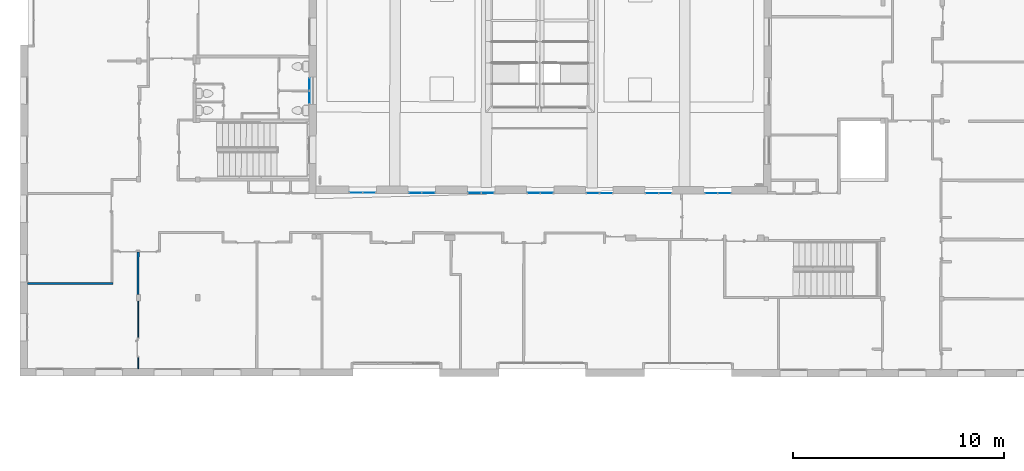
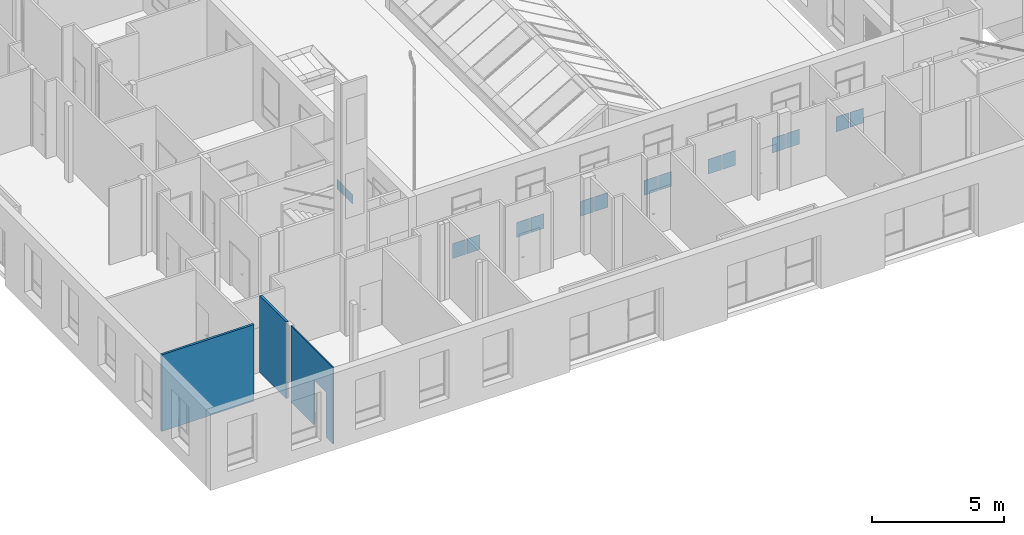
# One storey, part 41 of 101: 16 plates, 3 walls, 1 opening, 9 elements without a shape of their own.
"""IFC2X3 building model written with IfcOpenShell, lengths in metres."""

import ifcopenshell
import ifcopenshell.guid

model = None  # the IFC model being written
_history = None  # IfcOwnerHistory: only IFC2X3 demands one
_inside = {}  # id of a spatial element -> (the spatial element, [elements in it])
_under = {}  # id of a project, library or spatial element -> (it, [spatial elements below it])
_declared = {}  # id of a project -> (the project, [libraries it declares])
_typed = {}  # id of a type object -> (the type object, [elements of that type])
_made_of = {}  # id of a material, layer set ... -> (it, [elements and type objects made of it])


def new_model(schema):
    """Start an empty IFC model of exactly this schema.

    Asked for "IFC4X3", IfcOpenShell would pick the latest addendum, in which some entities
    have other attributes; the version numbers below select the first issue.
    IFC2X3 requires an IfcOwnerHistory on every rooted entity: one is made here for all.
    """
    global model, _history
    if schema == "IFC4X3":
        model = ifcopenshell.file(schema_version=(4, 3, 0, 0))
    else:
        model = ifcopenshell.file(schema=schema)
    _inside.clear()
    _under.clear()
    _declared.clear()
    _typed.clear()
    _made_of.clear()
    _history = None
    if model.schema == "IFC2X3":
        org = make("IfcOrganization", Name="unknown")
        user = make(
            "IfcPersonAndOrganization",
            ThePerson=make("IfcPerson", FamilyName="unknown"),
            TheOrganization=org,
        )
        app = make(
            "IfcApplication",
            ApplicationDeveloper=org,
            Version="unknown",
            ApplicationFullName="unknown",
            ApplicationIdentifier="unknown",
        )
        _history = make(
            "IfcOwnerHistory",
            OwningUser=user,
            OwningApplication=app,
            ChangeAction="ADDED",
            CreationDate=0,
        )
    return model


def make(cls, **values):
    """One entity of the class cls with the attributes given. An attribute that is None is left unset."""
    return model.create_entity(
        cls, **{name: value for name, value in values.items() if value is not None}
    )


def entity(cls, *values):
    """Any entity or typed value of the class cls, its attributes in the order of the schema. None: left unset."""
    e = model.create_entity(cls)
    for i, value in enumerate(values):
        if value is not None:
            e[i] = value
    return e


def rooted(cls, **values):
    """An entity with a GlobalId (a new one), such as an element, a storey or a relation."""
    return make(cls, GlobalId=ifcopenshell.guid.new(), OwnerHistory=_history, **values)


def si_unit(unit_type, name, prefix=None):
    """IfcSIUnit, for example si_unit("LENGTHUNIT", "METRE", prefix="MILLI")."""
    return make("IfcSIUnit", UnitType=unit_type, Prefix=prefix, Name=name)


def converted_unit(unit_type, name, factor, base, dimensions=None, offset=None):
    """IfcConversionBasedUnit, such as the inch: factor (a typed value) times the base unit."""
    return make(
        "IfcConversionBasedUnit"
        if offset is None
        else "IfcConversionBasedUnitWithOffset",
        ConversionOffset=offset,
        Dimensions=None
        if dimensions is None
        else entity("IfcDimensionalExponents", *dimensions),
        UnitType=unit_type,
        Name=name,
        ConversionFactor=make(
            "IfcMeasureWithUnit", ValueComponent=factor, UnitComponent=base
        ),
    )


def derived_unit(unit_type, elements):
    """IfcDerivedUnit: a product of units, each with its exponent."""
    return make(
        "IfcDerivedUnit",
        Elements=[
            make("IfcDerivedUnitElement", Unit=unit, Exponent=power)
            for unit, power in elements
        ],
        UnitType=unit_type,
    )


def assignment(units):
    """IfcUnitAssignment: the units of a project."""
    return None if units is None else make("IfcUnitAssignment", Units=units)


def point(xyz):
    """IfcCartesianPoint."""
    return None if xyz is None else make("IfcCartesianPoint", Coordinates=xyz)


def direction(xyz):
    """IfcDirection."""
    return None if xyz is None else make("IfcDirection", DirectionRatios=xyz)


def frame(location, z_axis=None, x_axis=None):
    """IfcAxis2Placement3D, a coordinate frame: its origin and axes. An axis left out is left unset."""
    return make(
        "IfcAxis2Placement3D",
        Location=point(location),
        Axis=direction(z_axis),
        RefDirection=direction(x_axis),
    )


def frame_2d(location, x_axis=None):
    """IfcAxis2Placement2D, a coordinate frame in the plane: its origin and x axis."""
    return make(
        "IfcAxis2Placement2D", Location=point(location), RefDirection=direction(x_axis)
    )


def origin():
    """The frame at (0, 0, 0) with its axes left unset."""
    return frame((0.0, 0.0, 0.0))


def place(relative_to, where):
    """IfcLocalPlacement: puts the frame where relative to a parent placement (None: the world)."""
    return make(
        "IfcLocalPlacement", PlacementRelTo=relative_to, RelativePlacement=where
    )


def context(
    kind, dimensions, precision=None, world=None, true_north=None, identifier=None
):
    """IfcGeometricRepresentationContext, for example the 3D "Model" context."""
    return make(
        "IfcGeometricRepresentationContext",
        ContextIdentifier=identifier,
        ContextType=kind,
        CoordinateSpaceDimension=dimensions,
        Precision=precision,
        WorldCoordinateSystem=world,
        TrueNorth=true_north,
    )


def subcontext(parent, identifier, kind, view, scale=None):
    """IfcGeometricRepresentationSubContext, for example "Body" below "Model"."""
    return make(
        "IfcGeometricRepresentationSubContext",
        ContextIdentifier=identifier,
        ContextType=kind,
        ParentContext=parent,
        TargetScale=scale,
        TargetView=view,
    )


def project(units=None, contexts=None):
    """IfcProject with its units and contexts."""
    return rooted(
        "IfcProject",
        Name="project",
        RepresentationContexts=contexts,
        UnitsInContext=assignment(units),
    )


def spatial(cls, under=None, at=None, **own):
    """A site, building, storey or space (cls), placed at a placement, below another one or the project."""
    s = rooted(cls, ObjectPlacement=at, **own)
    if under is not None:
        _under.setdefault(under.id(), (under, []))[1].append(s)
    return s


def profile(cls, at=None, kind="AREA", **sizes):
    """A parametric profile (cls). Its sizes go by their IFC names, for example OverallWidth=200.0."""
    return make(cls, ProfileType=kind, Position=at, **sizes)


def rectangle(**sizes):
    """IfcRectangleProfileDef."""
    return profile("IfcRectangleProfileDef", **sizes)


def extrude(swept, where, along, depth):
    """IfcExtrudedAreaSolid: the profile swept, set in the frame where, extruded along a direction by depth."""
    return make(
        "IfcExtrudedAreaSolid",
        SweptArea=swept,
        Position=where,
        ExtrudedDirection=direction(along),
        Depth=depth,
    )


def shape(context_of_items, identifier, shape_type, items):
    """IfcShapeRepresentation: the items that make up one representation, for example the "Body"."""
    return make(
        "IfcShapeRepresentation",
        ContextOfItems=context_of_items,
        RepresentationIdentifier=identifier,
        RepresentationType=shape_type,
        Items=items,
    )


def source(mapping_origin, context_of_items, identifier, shape_type, items):
    """IfcRepresentationMap: a shape defined once, which mapped items show again and again."""
    return make(
        "IfcRepresentationMap",
        MappingOrigin=mapping_origin,
        MappedRepresentation=shape(context_of_items, identifier, shape_type, items),
    )


def transform(
    local_origin,
    x_axis=None,
    y_axis=None,
    z_axis=None,
    scale=None,
    scale2=None,
    scale3=None,
    uniform=True,
):
    """IfcCartesianTransformationOperator3D, or its non-uniform kind. x_axis, y_axis, z_axis: its Axis1, 2, 3."""
    if uniform:
        return make(
            "IfcCartesianTransformationOperator3D",
            Axis1=direction(x_axis),
            Axis2=direction(y_axis),
            LocalOrigin=point(local_origin),
            Scale=scale,
            Axis3=direction(z_axis),
        )
    return make(
        "IfcCartesianTransformationOperator3DnonUniform",
        Axis1=direction(x_axis),
        Axis2=direction(y_axis),
        LocalOrigin=point(local_origin),
        Scale=scale,
        Axis3=direction(z_axis),
        Scale2=scale2,
        Scale3=scale3,
    )


def mapped(mapping_source, mapping_target):
    """IfcMappedItem: shows the shape of a source again, moved by a transform."""
    return make(
        "IfcMappedItem", MappingSource=mapping_source, MappingTarget=mapping_target
    )


def material(Name=None, Category=None):
    """IfcMaterial."""
    return make("IfcMaterial", Name=Name, Category=Category)


def layer(
    of_material, thickness, ventilated=None, Name=None, Category=None, Priority=None
):
    """IfcMaterialLayer: one layer of a wall or slab, of a material (None: an air gap)."""
    return make(
        "IfcMaterialLayer",
        Material=of_material,
        LayerThickness=thickness,
        IsVentilated=ventilated,
        Name=Name,
        Category=Category,
        Priority=Priority,
    )


def layer_set(layers, Name=None):
    """IfcMaterialLayerSet."""
    return make("IfcMaterialLayerSet", MaterialLayers=layers, LayerSetName=Name)


def layer_usage(for_layer_set, set_direction, sense, offset, extent=None):
    """IfcMaterialLayerSetUsage: how a layer set lies in its element."""
    return make(
        "IfcMaterialLayerSetUsage",
        ForLayerSet=for_layer_set,
        LayerSetDirection=set_direction,
        DirectionSense=sense,
        OffsetFromReferenceLine=offset,
        ReferenceExtent=extent,
    )


def made_of(thing, what):
    """Note that an element or type object is made of a material, layer set ...; save() writes the relation."""
    if what is not None:
        _made_of.setdefault(what.id(), (what, []))[1].append(thing)
    return thing


def type_object(cls, material=None, **own):
    """A type object (cls), such as IfcWallType, which elements share."""
    return made_of(rooted(cls, **own), material)


def type_shapes(of_type, sources):
    """Give a type object the sources (RepresentationMaps) that its elements show as mapped items."""
    of_type.RepresentationMaps = sources


def element(
    cls,
    number,
    at=None,
    inside=None,
    cuts=None,
    type_object=None,
    material=None,
    context=None,
    identifier="Body",
    shape_type=None,
    held_by="IfcProductDefinitionShape",
    body=None,
    shapes=None,
    **own,
):
    """One element of the class cls, such as IfcWall. Its Tag is "e" and its number.

    at: its placement. inside: the storey or other place that contains it. cuts: it is an
    opening in that element (IfcRelVoidsElement). A single representation is given by context,
    identifier, shape_type and body (its items); several are given by shapes. held_by: the class
    of the entity that holds the representations. save() writes the other relations.
    """
    e = rooted(cls, Tag="e%d" % number, ObjectPlacement=at, **own)
    if body is not None:
        shapes = [shape(context, identifier, shape_type, body)]
    if shapes is not None:
        e.Representation = make(held_by, Representations=shapes)
    if inside is not None:
        _inside.setdefault(inside.id(), (inside, []))[1].append(e)
    if cuts is not None:
        rooted(
            "IfcRelVoidsElement", RelatingBuildingElement=cuts, RelatedOpeningElement=e
        )
    if type_object is not None:
        _typed.setdefault(type_object.id(), (type_object, []))[1].append(e)
    return made_of(e, material)


def aggregate(whole, parts):
    """IfcRelAggregates: a whole, such as a stair, and the parts it consists of."""
    return rooted("IfcRelAggregates", RelatingObject=whole, RelatedObjects=parts)


def save(model, path):
    """Write the relations noted so far, then the file.

    IfcRelAggregates (storeys below a building ...), IfcRelContainedInSpatialStructure (elements
    in a storey), IfcRelDefinesByType, IfcRelAssociatesMaterial and IfcRelDeclares: one each for
    every whole, place, type object, material and project.
    """
    for whole, parts in _under.values():
        aggregate(whole, parts)
    for where, things in _inside.values():
        rooted(
            "IfcRelContainedInSpatialStructure",
            RelatedElements=things,
            RelatingStructure=where,
        )
    for kind, things in _typed.values():
        rooted("IfcRelDefinesByType", RelatedObjects=things, RelatingType=kind)
    for what, things in _made_of.values():
        rooted("IfcRelAssociatesMaterial", RelatedObjects=things, RelatingMaterial=what)
    for by, libraries in _declared.values():
        rooted("IfcRelDeclares", RelatingContext=by, RelatedDefinitions=libraries)
    model.write(path)


model = new_model("IFC2X3")

# Units and contexts
model_context = context("Model", 3, precision=1e-05, world=origin(), true_north=direction((6.123233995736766e-17, 1.0)))
body_context = subcontext(model_context, "Body", "Model", "MODEL_VIEW")
ifc_project = project(units=[si_unit("LENGTHUNIT", "METRE"), si_unit("AREAUNIT", "SQUARE_METRE"), converted_unit("PLANEANGLEUNIT", "DEGREE", entity("IfcPlaneAngleMeasure", 0.017453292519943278), si_unit("PLANEANGLEUNIT", "RADIAN"), dimensions=[0, 0, 0, 0, 0, 0, 0]), derived_unit("THERMALTRANSMITTANCEUNIT", [(si_unit("MASSUNIT", "GRAM", prefix="KILO"), 1), (si_unit("THERMODYNAMICTEMPERATUREUNIT", "KELVIN"), -1), (si_unit("TIMEUNIT", "SECOND"), -3)])], contexts=[model_context])

# Site, building, storey
site_placement = place(None, frame((1253.6752467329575, 2072.143113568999, 91.49999999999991), z_axis=(0.0, 0.0, 1.0), x_axis=(0.7237211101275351, 0.6900925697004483, 0.0)))
site = spatial("IfcSite", under=ifc_project, at=site_placement, Name="Surface", CompositionType="ELEMENT")
building_placement = place(site_placement, origin())
building = spatial("IfcBuilding", under=site, at=building_placement, CompositionType="ELEMENT")
storey_placement = place(building_placement, origin())
storey = spatial("IfcBuildingStorey", under=building, at=storey_placement, Name="0- Rdc", CompositionType="ELEMENT", Elevation=-5.764692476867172e-13)

# Curtain wall, plate
curtain_wall_type_1 = type_object("IfcCurtainWallType", Name="Mur-rideau:Menuiserie Ext 1F+1OB VERTIC", PredefinedType="NOTDEFINED")
curtain_wall_1_placement = place(storey_placement, origin())
curtain_wall_1 = element("IfcCurtainWall", 1, at=curtain_wall_1_placement, inside=storey, type_object=curtain_wall_type_1, Name="Mur-rideau:Menuiserie Ext 1F+1OB VERTIC", ObjectType="Mur-rideau:Menuiserie Ext 1F+1OB VERTIC")
ifc_material_1 = material(Name="OMD-Verre opal")
ifc_material_2 = material(Name="Verre")
ifc_layer_1 = layer(ifc_material_2, 0.01)
ifc_layer_set_1 = layer_set([ifc_layer_1], Name="Panneau système:Vitré opal")
plate_type_1 = type_object("IfcPlateType", Name="Panneau système:Vitré opal", PredefinedType="CURTAIN_PANEL", material=ifc_layer_set_1)
shared_shape_1 = source(origin(), body_context, "Body", "SweptSolid", [
    extrude(rectangle(XDim=0.01, YDim=0.5496959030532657, at=frame_2d((0.0, 3.608224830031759e-16), x_axis=(1.0, 0.0))), frame((0.0, 0.0, 0.0), z_axis=(0.0, 0.0, 1.0), x_axis=(0.0, 1.0, 0.0)), (0.0, 0.0, 1.0), 0.44499999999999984),
])
type_shapes(plate_type_1, [shared_shape_1])
plate_1_placement = place(curtain_wall_1_placement, frame((162.72651495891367, 4.341201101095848, 0.6699999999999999), z_axis=(0.0, 0.0, 1.0), x_axis=(0.6909838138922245, 0.722870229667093, 0.0)))
plate_1 = element("IfcPlate", 2, at=plate_1_placement, type_object=plate_type_1, material=ifc_material_1, Name="Panneau système:Vitré opal", ObjectType="Panneau système:Vitré opal", context=body_context, shape_type="MappedRepresentation", body=[
    mapped(shared_shape_1, transform((0.0, 0.0, 0.0), scale=1.0)),
])
aggregate(curtain_wall_1, [plate_1])

# Curtain wall, plates
curtain_wall_type_2 = type_object("IfcCurtainWallType", Name="Mur-rideau:Menuiserie Ext 2OF+1F VERTIC", PredefinedType="NOTDEFINED")
curtain_wall_2_placement = place(storey_placement, origin())
curtain_wall_2 = element("IfcCurtainWall", 3, at=curtain_wall_2_placement, inside=storey, type_object=curtain_wall_type_2, Name="Mur-rideau:Menuiserie Ext 2OF+1F VERTIC", ObjectType="Mur-rideau:Menuiserie Ext 2OF+1F VERTIC")
ifc_layer_2 = layer(ifc_material_2, 0.01)
ifc_layer_set_2 = layer_set([ifc_layer_2], Name="Panneau système:Vitré")
plate_type_2 = type_object("IfcPlateType", Name="Panneau système:Vitré", PredefinedType="CURTAIN_PANEL", material=ifc_layer_set_2)
shared_shape_2 = source(origin(), body_context, "Body", "SweptSolid", [
    extrude(rectangle(XDim=0.01, YDim=0.5748479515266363, at=frame_2d((0.0, 1.4988010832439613e-15), x_axis=(1.0, 0.0))), frame((0.0, 0.0, 0.0), z_axis=(0.0, 0.0, 1.0), x_axis=(0.0, 1.0, 0.0)), (0.0, 0.0, 1.0), 0.6916666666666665),
])
type_shapes(plate_type_2, [shared_shape_2])
plate_2_placement = place(curtain_wall_2_placement, frame((161.66565428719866, -0.8701277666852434, 0.05), z_axis=(0.0, 0.0, 1.0), x_axis=(-0.7228702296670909, 0.6909838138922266, 0.0)))
plate_2 = element("IfcPlate", 4, at=plate_2_placement, type_object=plate_type_2, material=ifc_material_2, Name="Panneau système:Vitré", ObjectType="Panneau système:Vitré", context=body_context, shape_type="MappedRepresentation", body=[
    mapped(shared_shape_2, transform((0.0, 0.0, 0.0), scale=1.0)),
])
plate_3_placement = place(curtain_wall_2_placement, frame((161.21397030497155, -0.438367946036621, 0.05), z_axis=(0.0, 0.0, 1.0), x_axis=(-0.7228702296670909, 0.6909838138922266, 0.0)))
plate_3 = element("IfcPlate", 5, at=plate_3_placement, type_object=plate_type_2, material=ifc_material_2, Name="Panneau système:Vitré", ObjectType="Panneau système:Vitré", context=body_context, shape_type="MappedRepresentation", body=[
    mapped(shared_shape_2, transform((0.0, 0.0, 0.0), scale=1.0)),
])
aggregate(curtain_wall_2, [plate_2, plate_3])

curtain_wall_3_placement = place(storey_placement, origin())
curtain_wall_3 = element("IfcCurtainWall", 6, at=curtain_wall_3_placement, inside=storey, type_object=curtain_wall_type_2, Name="Mur-rideau:Menuiserie Ext 2OF+1F VERTIC", ObjectType="Mur-rideau:Menuiserie Ext 2OF+1F VERTIC")
plate_4_placement = place(curtain_wall_3_placement, frame((163.6922186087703, -2.807298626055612, 0.05), z_axis=(0.0, 0.0, 1.0), x_axis=(-0.7228702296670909, 0.6909838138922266, 0.0)))
plate_4 = element("IfcPlate", 7, at=plate_4_placement, type_object=plate_type_2, material=ifc_material_2, Name="Panneau système:Vitré", ObjectType="Panneau système:Vitré", context=body_context, shape_type="MappedRepresentation", body=[
    mapped(shared_shape_2, transform((0.0, 0.0, 0.0), scale=1.0)),
])
plate_5_placement = place(curtain_wall_3_placement, frame((163.2405346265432, -2.3755388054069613, 0.05), z_axis=(0.0, 0.0, 1.0), x_axis=(-0.7228702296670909, 0.6909838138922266, 0.0)))
plate_5 = element("IfcPlate", 8, at=plate_5_placement, type_object=plate_type_2, material=ifc_material_2, Name="Panneau système:Vitré", ObjectType="Panneau système:Vitré", context=body_context, shape_type="MappedRepresentation", body=[
    mapped(shared_shape_2, transform((0.0, 0.0, 0.0), scale=1.0)),
])
aggregate(curtain_wall_3, [plate_4, plate_5])

curtain_wall_4_placement = place(storey_placement, origin())
curtain_wall_4 = element("IfcCurtainWall", 9, at=curtain_wall_4_placement, inside=storey, type_object=curtain_wall_type_2, Name="Mur-rideau:Menuiserie Ext 2OF+1F VERTIC", ObjectType="Mur-rideau:Menuiserie Ext 2OF+1F VERTIC")
plate_6_placement = place(curtain_wall_4_placement, frame((165.7162552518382, -4.742053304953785, 0.05), z_axis=(0.0, 0.0, 1.0), x_axis=(-0.7228702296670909, 0.6909838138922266, 0.0)))
plate_6 = element("IfcPlate", 10, at=plate_6_placement, type_object=plate_type_2, material=ifc_material_2, Name="Panneau système:Vitré", ObjectType="Panneau système:Vitré", context=body_context, shape_type="MappedRepresentation", body=[
    mapped(shared_shape_2, transform((0.0, 0.0, 0.0), scale=1.0)),
])
plate_7_placement = place(curtain_wall_4_placement, frame((165.26457126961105, -4.310293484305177, 0.05), z_axis=(0.0, 0.0, 1.0), x_axis=(-0.7228702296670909, 0.6909838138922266, 0.0)))
plate_7 = element("IfcPlate", 11, at=plate_7_placement, type_object=plate_type_2, material=ifc_material_2, Name="Panneau système:Vitré", ObjectType="Panneau système:Vitré", context=body_context, shape_type="MappedRepresentation", body=[
    mapped(shared_shape_2, transform((0.0, 0.0, 0.0), scale=1.0)),
])
aggregate(curtain_wall_4, [plate_6, plate_7])

curtain_wall_5_placement = place(storey_placement, origin())
curtain_wall_5 = element("IfcCurtainWall", 12, at=curtain_wall_5_placement, inside=storey, type_object=curtain_wall_type_2, Name="Mur-rideau:Menuiserie Ext 2OF+1F VERTIC", ObjectType="Mur-rideau:Menuiserie Ext 2OF+1F VERTIC")
plate_8_placement = place(curtain_wall_5_placement, frame((167.74029189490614, -6.6768079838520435, 0.05), z_axis=(0.0, 0.0, 1.0), x_axis=(-0.7228702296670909, 0.6909838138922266, 0.0)))
plate_8 = element("IfcPlate", 13, at=plate_8_placement, type_object=plate_type_2, material=ifc_material_2, Name="Panneau système:Vitré", ObjectType="Panneau système:Vitré", context=body_context, shape_type="MappedRepresentation", body=[
    mapped(shared_shape_2, transform((0.0, 0.0, 0.0), scale=1.0)),
])
plate_9_placement = place(curtain_wall_5_placement, frame((167.288607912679, -6.245048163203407, 0.05), z_axis=(0.0, 0.0, 1.0), x_axis=(-0.7228702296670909, 0.6909838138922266, 0.0)))
plate_9 = element("IfcPlate", 14, at=plate_9_placement, type_object=plate_type_2, material=ifc_material_2, Name="Panneau système:Vitré", ObjectType="Panneau système:Vitré", context=body_context, shape_type="MappedRepresentation", body=[
    mapped(shared_shape_2, transform((0.0, 0.0, 0.0), scale=1.0)),
])
aggregate(curtain_wall_5, [plate_8, plate_9])

curtain_wall_6_placement = place(storey_placement, origin())
curtain_wall_6 = element("IfcCurtainWall", 15, at=curtain_wall_6_placement, inside=storey, type_object=curtain_wall_type_2, Name="Mur-rideau:Menuiserie Ext 2OF+1F VERTIC", ObjectType="Mur-rideau:Menuiserie Ext 2OF+1F VERTIC")
plate_10_placement = place(curtain_wall_6_placement, frame((169.764328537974, -8.611562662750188, 0.05), z_axis=(0.0, 0.0, 1.0), x_axis=(-0.7228702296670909, 0.6909838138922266, 0.0)))
plate_10 = element("IfcPlate", 16, at=plate_10_placement, type_object=plate_type_2, material=ifc_material_2, Name="Panneau système:Vitré", ObjectType="Panneau système:Vitré", context=body_context, shape_type="MappedRepresentation", body=[
    mapped(shared_shape_2, transform((0.0, 0.0, 0.0), scale=1.0)),
])
plate_11_placement = place(curtain_wall_6_placement, frame((169.31264455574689, -8.179802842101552, 0.05), z_axis=(0.0, 0.0, 1.0), x_axis=(-0.7228702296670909, 0.6909838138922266, 0.0)))
plate_11 = element("IfcPlate", 17, at=plate_11_placement, type_object=plate_type_2, material=ifc_material_2, Name="Panneau système:Vitré", ObjectType="Panneau système:Vitré", context=body_context, shape_type="MappedRepresentation", body=[
    mapped(shared_shape_2, transform((0.0, 0.0, 0.0), scale=1.0)),
])
aggregate(curtain_wall_6, [plate_10, plate_11])

curtain_wall_7_placement = place(storey_placement, origin())
curtain_wall_7 = element("IfcCurtainWall", 18, at=curtain_wall_7_placement, inside=storey, type_object=curtain_wall_type_2, Name="Mur-rideau:Menuiserie Ext 2OF+1F VERTIC", ObjectType="Mur-rideau:Menuiserie Ext 2OF+1F VERTIC")
plate_12_placement = place(curtain_wall_7_placement, frame((171.78836518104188, -10.54631734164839, 0.05), z_axis=(0.0, 0.0, 1.0), x_axis=(-0.7228702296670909, 0.6909838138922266, 0.0)))
plate_12 = element("IfcPlate", 19, at=plate_12_placement, type_object=plate_type_2, material=ifc_material_2, Name="Panneau système:Vitré", ObjectType="Panneau système:Vitré", context=body_context, shape_type="MappedRepresentation", body=[
    mapped(shared_shape_2, transform((0.0, 0.0, 0.0), scale=1.0)),
])
plate_13_placement = place(curtain_wall_7_placement, frame((171.33668119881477, -10.114557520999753, 0.05), z_axis=(0.0, 0.0, 1.0), x_axis=(-0.7228702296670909, 0.6909838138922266, 0.0)))
plate_13 = element("IfcPlate", 20, at=plate_13_placement, type_object=plate_type_2, material=ifc_material_2, Name="Panneau système:Vitré", ObjectType="Panneau système:Vitré", context=body_context, shape_type="MappedRepresentation", body=[
    mapped(shared_shape_2, transform((0.0, 0.0, 0.0), scale=1.0)),
])
aggregate(curtain_wall_7, [plate_12, plate_13])

curtain_wall_8_placement = place(storey_placement, origin())
curtain_wall_8 = element("IfcCurtainWall", 21, at=curtain_wall_8_placement, inside=storey, type_object=curtain_wall_type_2, Name="Mur-rideau:Menuiserie Ext 2OF+1F VERTIC", ObjectType="Mur-rideau:Menuiserie Ext 2OF+1F VERTIC")
plate_14_placement = place(curtain_wall_8_placement, frame((173.8124018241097, -12.481072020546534, 0.05), z_axis=(0.0, 0.0, 1.0), x_axis=(-0.7228702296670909, 0.6909838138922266, 0.0)))
plate_14 = element("IfcPlate", 22, at=plate_14_placement, type_object=plate_type_2, material=ifc_material_2, Name="Panneau système:Vitré", ObjectType="Panneau système:Vitré", context=body_context, shape_type="MappedRepresentation", body=[
    mapped(shared_shape_2, transform((0.0, 0.0, 0.0), scale=1.0)),
])
plate_15_placement = place(curtain_wall_8_placement, frame((173.3607178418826, -12.049312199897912, 0.05), z_axis=(0.0, 0.0, 1.0), x_axis=(-0.7228702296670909, 0.6909838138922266, 0.0)))
plate_15 = element("IfcPlate", 23, at=plate_15_placement, type_object=plate_type_2, material=ifc_material_2, Name="Panneau système:Vitré", ObjectType="Panneau système:Vitré", context=body_context, shape_type="MappedRepresentation", body=[
    mapped(shared_shape_2, transform((0.0, 0.0, 0.0), scale=1.0)),
])
aggregate(curtain_wall_8, [plate_14, plate_15])

# Curtain wall, plate
curtain_wall_9_placement = place(storey_placement, origin())
curtain_wall_9 = element("IfcCurtainWall", 24, at=curtain_wall_9_placement, inside=storey, type_object=curtain_wall_type_1, Name="Mur-rideau:Menuiserie Ext 1F+1OB VERTIC", ObjectType="Mur-rideau:Menuiserie Ext 1F+1OB VERTIC")
plate_type_3 = type_object("IfcPlateType", Name="Panneau système:Vitré opal", PredefinedType="CURTAIN_PANEL", material=ifc_layer_set_1)
shared_shape_3 = source(origin(), body_context, "Body", "SweptSolid", [
    extrude(rectangle(XDim=0.01, YDim=0.5500000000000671, at=frame_2d((0.0, 3.885780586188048e-15), x_axis=(1.0, 0.0))), frame((0.0, 0.0, 0.0), z_axis=(0.0, 0.0, 1.0), x_axis=(0.0, 1.0, 0.0)), (0.0, 0.0, 1.0), 0.44499999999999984),
])
type_shapes(plate_type_3, [shared_shape_3])
plate_16_placement = place(curtain_wall_9_placement, frame((163.17554937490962, 4.810956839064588, 0.6699999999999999), z_axis=(0.0, 0.0, 1.0), x_axis=(-0.6909838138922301, -0.7228702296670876, 0.0)))
plate_16 = element("IfcPlate", 25, at=plate_16_placement, type_object=plate_type_3, material=ifc_material_1, Name="Panneau système:Vitré opal", ObjectType="Panneau système:Vitré opal", context=body_context, shape_type="MappedRepresentation", body=[
    mapped(shared_shape_3, transform((0.0, 0.0, 0.0), scale=1.0)),
])
aggregate(curtain_wall_9, [plate_16])

# Walls
ifc_material_3 = material(Name="OMD_Béton blanc")
ifc_layer_3 = layer(ifc_material_3, 0.1)
ifc_layer_set_3 = layer_set([ifc_layer_3], Name="Mur de base:MUR 10")
ifc_layer_usage_1 = layer_usage(ifc_layer_set_3, "AXIS2", "NEGATIVE", 0.05)
wall_type_1 = type_object("IfcWallType", Name="Mur de base:MUR 10", PredefinedType="STANDARD", material=ifc_layer_set_3)
wall_1_placement = place(storey_placement, frame((151.8272980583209, 4.646968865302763, 0.0), z_axis=(0.0, 0.0, 1.0), x_axis=(-0.6909838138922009, -0.7228702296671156, 0.0)))
element("IfcWallStandardCase", 26, at=wall_1_placement, inside=storey, type_object=wall_type_1, material=ifc_layer_usage_1, Name="Mur de base:MUR 10", ObjectType="Mur de base:MUR 10", context=body_context, shape_type="SweptSolid", body=[
    extrude(rectangle(XDim=2.0150000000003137, YDim=0.09999999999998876, at=frame_2d((1.0075000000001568, 4.371503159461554e-16), x_axis=(-1.0, 0.0))), origin(), (0.0, 0.0, 1.0), 3.5499999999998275),
])
ifc_layer_usage_2 = layer_usage(ifc_layer_set_3, "AXIS2", "NEGATIVE", 0.05)
wall_2_placement = place(storey_placement, frame((149.93767603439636, 4.385093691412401, 0.0), z_axis=(0.0, 0.0, 1.0), x_axis=(-0.72287022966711, 0.6909838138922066, 0.0)))
element("IfcWallStandardCase", 27, at=wall_2_placement, inside=storey, type_object=wall_type_1, material=ifc_layer_usage_2, Name="Mur de base:MUR 10", ObjectType="Mur de base:MUR 10", context=body_context, shape_type="SweptSolid", body=[
    extrude(rectangle(XDim=4.040000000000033, YDim=0.10000000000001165, at=frame_2d((2.0200000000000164, 3.3306690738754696e-16), x_axis=(-1.0, 0.0))), origin(), (0.0, 0.0, 1.0), 3.5499999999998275),
])

# Wall, opening
ifc_layer_4 = layer(ifc_material_3, 0.05)
ifc_layer_set_4 = layer_set([ifc_layer_4], Name="Mur de base:MUR 5")
ifc_layer_usage_3 = layer_usage(ifc_layer_set_4, "AXIS2", "NEGATIVE", 0.025)
wall_type_2 = type_object("IfcWallType", Name="Mur de base:MUR 5", PredefinedType="STANDARD", material=ifc_layer_set_4)
wall_3_placement = place(storey_placement, frame((150.23851358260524, 2.963159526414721, 0.0), z_axis=(0.0, 0.0, 1.0), x_axis=(-0.6909838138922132, -0.7228702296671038, 0.0)))
wall_3 = element("IfcWallStandardCase", 28, at=wall_3_placement, inside=storey, type_object=wall_type_2, material=ifc_layer_usage_3, Name="Mur de base:MUR 5", ObjectType="Mur de base:MUR 5", context=body_context, shape_type="SweptSolid", body=[
    extrude(rectangle(XDim=3.1999999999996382, YDim=0.050000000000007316, at=frame_2d((1.5999999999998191, -1.5092094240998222e-16), x_axis=(-1.0, 0.0))), origin(), (0.0, 0.0, 1.0), 3.5499999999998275),
])
opening_placement = place(wall_3_placement, frame((2.6674999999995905, 0.025000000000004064, 0.0)))
element("IfcOpeningElement", 29, at=opening_placement, cuts=wall_3, Name="OMD_Porte 1V tunnel:80x204:1", ObjectType="Opening", context=body_context, shape_type="SweptSolid", body=[
    extrude(rectangle(XDim=2.0850000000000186, YDim=0.9349999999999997, at=frame_2d((1.0425000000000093, 0.46749999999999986), x_axis=(1.0, 0.0))), frame((0.0, 0.0, 0.0), z_axis=(0.0, -1.0, 0.0), x_axis=(0.0, 0.0, 1.0)), (0.0, 0.0, 1.0), 0.05),
])

save(model, "model.ifc")
